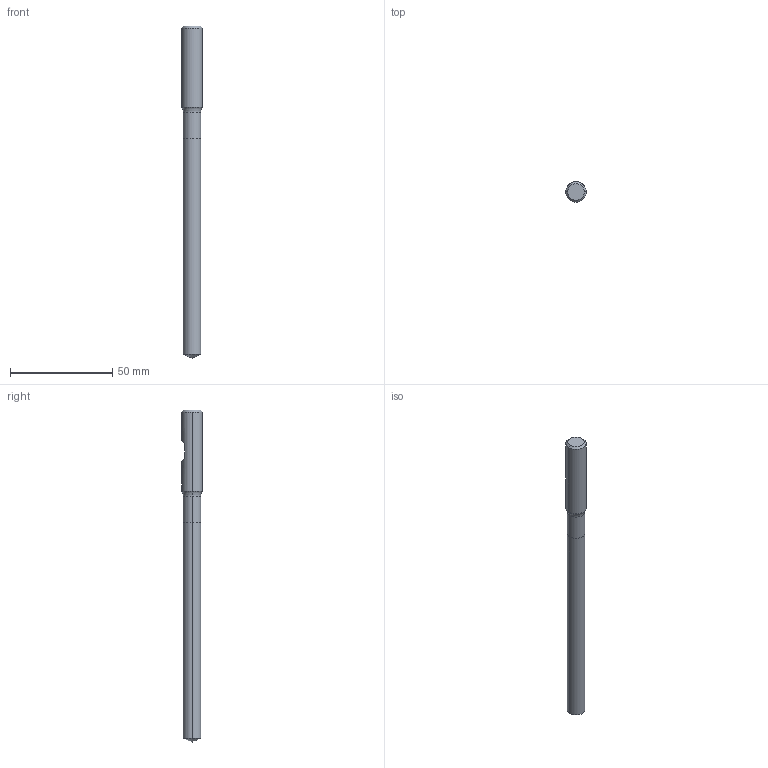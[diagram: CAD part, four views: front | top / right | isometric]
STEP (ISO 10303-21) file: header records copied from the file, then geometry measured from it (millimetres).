
FILE_DESCRIPTION (( 'STEP AP214' ), '1' );
FILE_NAME ('710.085.10_3D-model.step', '2022-02-22T17:42:59', ( '' ), ( '' ), 'SwSTEP 2.0', 'SolidWorks 2020', '' );
FILE_SCHEMA (( 'AUTOMOTIVE_DESIGN' ));
Length unit declared in the file: millimetre
Products named in the file (3): 710.085.10_3D-model; CUT-3D^Baugr130; NOCUT-3D^Baugr130
Assembly tree (2 placements, depth 2):
  710.085.10_3D-model
    CUT-3D^Baugr130
    NOCUT-3D^Baugr130
Bounding box: 10 x 10 x 162 mm (x, y, z)
Volume: 9930.9 mm3; surface area: 4707.1 mm2
Topology: 2 solids, 2 shells, 20 faces, 38 edges, 21 vertices
Faces by surface type: cone 6, cylinder 6, plane 6, torus 2
Entity records: 608 total; most frequent: DIRECTION 108, CARTESIAN_POINT 91, ORIENTED_EDGE 72, AXIS2_PLACEMENT_3D 46, EDGE_CURVE 36, EDGE_LOOP 21, VERTEX_POINT 21, FACE_OUTER_BOUND 20
